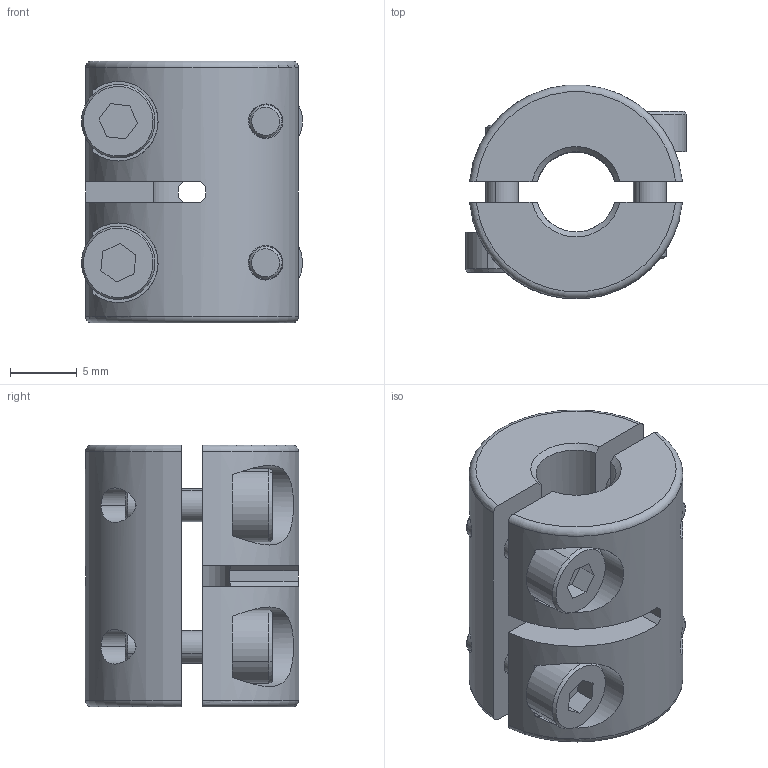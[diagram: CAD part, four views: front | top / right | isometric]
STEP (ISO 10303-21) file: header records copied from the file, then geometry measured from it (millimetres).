
FILE_DESCRIPTION (( 'STEP AP203' ), '1' );
FILE_NAME ('Ruland_MWSP-6-F.step', '2017-08-22T12:48:21', ( '' ), ( '' ), 'SwSTEP 2.0', 'SolidWorks 2017', '' );
FILE_SCHEMA (( 'CONFIG_CONTROL_DESIGN' ));
Length unit declared in the file: inch
Products named in the file (4): MWSP Assembled_MWSP-6-F; Ruland_MWSP-6-F; Metric Socket Head Cap Screws 1_CFM3_8; MWSP Dbl Wide Collars top and bottom_MWSP-6
Assembly tree (7 placements, depth 3):
  Ruland_MWSP-6-F
    MWSP Assembled_MWSP-6-F
      MWSP Dbl Wide Collars top and bottom_MWSP-6  x2
    Metric Socket Head Cap Screws 1_CFM3_8  x4
Bounding box: 16.52 x 15.95 x 19.59 mm (x, y, z)
Volume: 2873.3 mm3; surface area: 2977 mm2
Topology: 6 solids, 6 shells, 136 faces, 320 edges, 208 vertices
Faces by surface type: plane 64, cylinder 48, cone 20, torus 4
Entity records: 2208 total; most frequent: CARTESIAN_POINT 473, DIRECTION 264, ORIENTED_EDGE 244, EDGE_CURVE 122, AXIS2_PLACEMENT_3D 103, VERTEX_POINT 80, EDGE_LOOP 62, LINE 58
